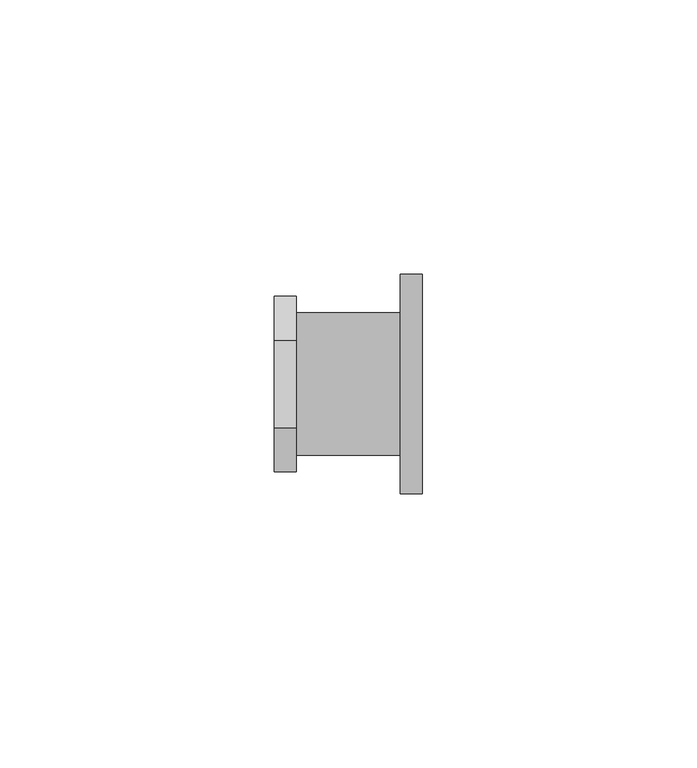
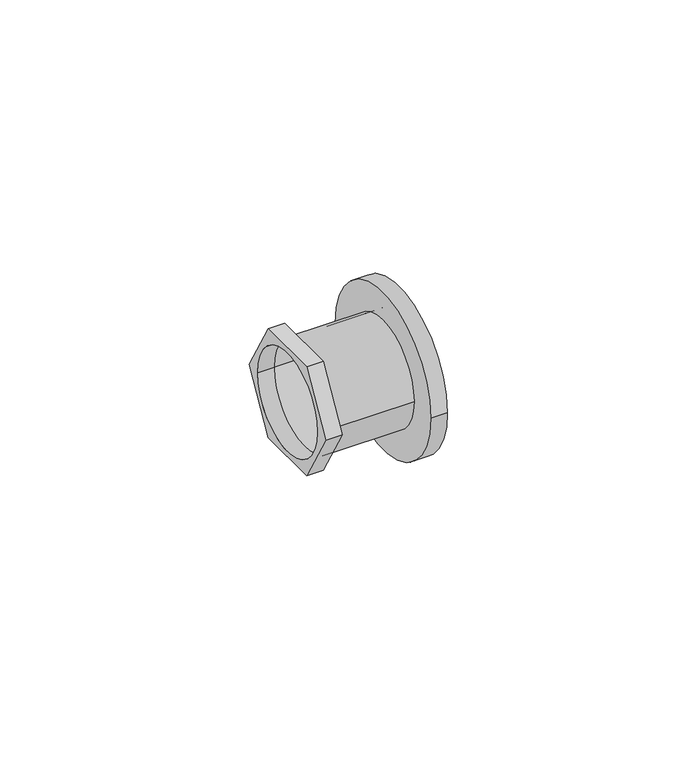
"""IFC4 building model written with IfcOpenShell, lengths in millimetres: pipe fitting geometry, БИР ПЕКС_НПР_Соединитель_Гайка накидная : Соединитель прямой с накидной гайкой."""

from ifc_helpers import new_model, si_unit, point, frame, origin, origin_2d, place, context, project, spatial, polyline, circle_curve, trimmed, segment, composite_curve, outline, extrude, source, transform, mapped, element, save


def pipe_fitting_1736fcaa(model_context):
    return source(origin(), model_context, "Body", "SweptSolid", [
        extrude(outline(polyline([(-8.0, -13.8564065), (-16.0, 0.0), (-8.0, 13.8564065), (8.0, 13.8564065), (16.0, 0.0), (8.0, -13.8564065), (-8.0, -13.8564065)]), holes=[composite_curve([segment(trimmed(circle_curve(origin_2d(), 12.5), [point((-12.5, 0.0))], [point((12.5, 0.0))], True, "CARTESIAN"), True, "CONTINUOUS"), segment(trimmed(circle_curve(origin_2d(), 12.5), [point((12.5, 0.0))], [point((-12.5, 0.0))], True, "CARTESIAN"), True, "CONTINUOUS")], self_intersect=False)]), frame((-13.5, 0.0, 0.0), z_axis=(1.0, 0.0, 0.0), x_axis=(0.0, 1.0, 0.0)), (0.0, 0.0, 1.0), 4.0),
        extrude(outline(composite_curve([segment(trimmed(circle_curve(origin_2d(), 13.0), [point((-13.0, 0.0))], [point((13.0, 0.0))], False, "CARTESIAN"), True, "CONTINUOUS"), segment(trimmed(circle_curve(origin_2d(), 13.0), [point((13.0, 0.0))], [point((-13.0, 0.0))], False, "CARTESIAN"), True, "CONTINUOUS")], self_intersect=False), holes=[composite_curve([segment(trimmed(circle_curve(origin_2d(), 12.5), [point((-12.5, 0.0))], [point((12.5, 0.0))], True, "CARTESIAN"), True, "CONTINUOUS"), segment(trimmed(circle_curve(origin_2d(), 12.5), [point((12.5, 0.0))], [point((-12.5, 0.0))], True, "CARTESIAN"), True, "CONTINUOUS")], self_intersect=False)]), frame((-9.5, 0.0, 0.0), z_axis=(1.0, 0.0, 0.0), x_axis=(0.0, 1.0, 0.0)), (0.0, 0.0, 1.0), 19.0),
        extrude(outline(composite_curve([segment(trimmed(circle_curve(origin_2d(), 20.0), [point((-20.0, 0.0))], [point((20.0, 0.0))], False, "CARTESIAN"), True, "CONTINUOUS"), segment(trimmed(circle_curve(origin_2d(), 20.0), [point((20.0, 0.0))], [point((-20.0, 0.0))], False, "CARTESIAN"), True, "CONTINUOUS")], self_intersect=False), holes=[composite_curve([segment(trimmed(circle_curve(origin_2d(), 12.5), [point((-12.5, 0.0))], [point((12.5, 0.0))], True, "CARTESIAN"), True, "CONTINUOUS"), segment(trimmed(circle_curve(origin_2d(), 12.5), [point((12.5, 0.0))], [point((-12.5, 0.0))], True, "CARTESIAN"), True, "CONTINUOUS")], self_intersect=False)]), frame((9.5, 0.0, 0.0), z_axis=(1.0, 0.0, 0.0), x_axis=(0.0, 1.0, 0.0)), (0.0, 0.0, 1.0), 4.0),
    ])


if __name__ == "__main__":
    model = new_model("IFC4")
    model_context = context("Model", 3, world=origin())
    ifc_project = project(units=[si_unit("LENGTHUNIT", "METRE", prefix="MILLI")], contexts=[model_context])
    site = spatial("IfcSite", under=ifc_project)
    building = spatial("IfcBuilding", under=site)
    placement = place(None, origin())
    pipe_fitting_shape = pipe_fitting_1736fcaa(model_context)
    element("IfcPipeFitting", 1, ObjectType="БИР ПЕКС_НПР_Соединитель_Гайка накидная : Соединитель прямой с накидной гайкой", at=placement, inside=building, context=model_context, shape_type="MappedRepresentation", body=[
        mapped(pipe_fitting_shape, transform((0.0, 0.0, 0.0), x_axis=(1.0, 0.0, 0.0), y_axis=(0.0, 1.0, 0.0), z_axis=(0.0, 0.0, 1.0))),
    ])
    save(model, "model.ifc")
